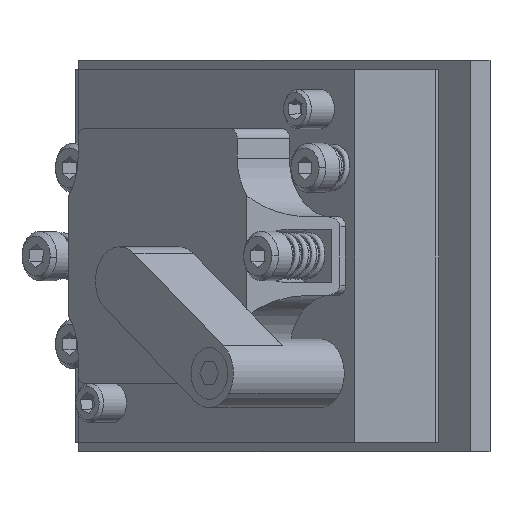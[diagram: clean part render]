
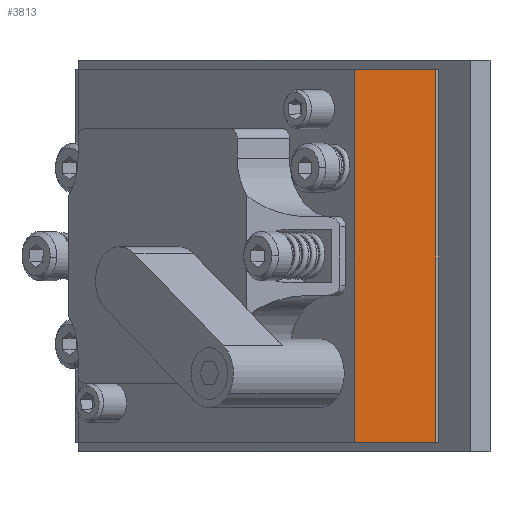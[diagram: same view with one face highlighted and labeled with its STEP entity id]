
A CAD part, left-side view. The second image highlights one B-rep face of the part: STEP entity #3813.
In plain terms, the highlighted planar face has unit normal (-0.999, 0.041, 0).
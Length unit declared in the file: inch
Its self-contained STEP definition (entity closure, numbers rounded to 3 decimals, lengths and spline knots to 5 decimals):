
#354 = ORIENTED_EDGE ( 'NONE', *, *, #46374, .F. ) ;
#3813 = ADVANCED_FACE ( 'NONE', ( #11145 ), #47428, .F. ) ;
#4390 = VERTEX_POINT ( 'NONE', #17669 ) ;
#4763 = CARTESIAN_POINT ( 'NONE',  ( -1.39575, -0.90235, 1.1875 ) ) ;
#6052 = EDGE_CURVE ( 'NONE', #47075, #25583, #19904, .T. ) ;
#8228 = EDGE_LOOP ( 'NONE', ( #38543, #354, #34340, #9593 ) ) ;
#8269 = DIRECTION ( 'NONE',  ( 0.041, 0.999, 0. ) ) ;
#9593 = ORIENTED_EDGE ( 'NONE', *, *, #20263, .T. ) ;
#10152 = CARTESIAN_POINT ( 'NONE',  ( -1.37454, -0.38616, -1.1875 ) ) ;
#11145 = FACE_OUTER_BOUND ( 'NONE', #8228, .T. ) ;
#12172 = CARTESIAN_POINT ( 'NONE',  ( -1.39575, -0.90235, -1.1875 ) ) ;
#15019 = DIRECTION ( 'NONE',  ( -0.041, -0.999, 0. ) ) ;
#16305 = DIRECTION ( 'NONE',  ( 0., 0., -1. ) ) ;
#17669 = CARTESIAN_POINT ( 'NONE',  ( -1.37454, -0.38616, -1.1875 ) ) ;
#19904 = LINE ( 'NONE', #31410, #52906 ) ;
#20263 = EDGE_CURVE ( 'NONE', #47075, #4390, #41264, .T. ) ;
#23762 = LINE ( 'NONE', #28780, #30541 ) ;
#25583 = VERTEX_POINT ( 'NONE', #4763 ) ;
#27105 = DIRECTION ( 'NONE',  ( -0.041, -0.999, 0. ) ) ;
#28473 = VECTOR ( 'NONE', #45450, 39.37008 ) ;
#28780 = CARTESIAN_POINT ( 'NONE',  ( -1.39575, -0.90235, 1.1875 ) ) ;
#30541 = VECTOR ( 'NONE', #16305, 39.37008 ) ;
#31410 = CARTESIAN_POINT ( 'NONE',  ( -1.37454, -0.38616, 1.1875 ) ) ;
#34340 = ORIENTED_EDGE ( 'NONE', *, *, #6052, .F. ) ;
#38543 = ORIENTED_EDGE ( 'NONE', *, *, #44381, .T. ) ;
#39405 = VECTOR ( 'NONE', #27105, 39.37008 ) ;
#41264 = LINE ( 'NONE', #54517, #28473 ) ;
#41908 = VERTEX_POINT ( 'NONE', #12172 ) ;
#43411 = AXIS2_PLACEMENT_3D ( 'NONE', #51954, #55731, #8269 ) ;
#44381 = EDGE_CURVE ( 'NONE', #4390, #41908, #50880, .T. ) ;
#44942 = CARTESIAN_POINT ( 'NONE',  ( -1.37454, -0.38616, 1.1875 ) ) ;
#45450 = DIRECTION ( 'NONE',  ( 0., 0., -1. ) ) ;
#46374 = EDGE_CURVE ( 'NONE', #25583, #41908, #23762, .T. ) ;
#47075 = VERTEX_POINT ( 'NONE', #44942 ) ;
#47428 = PLANE ( 'NONE',  #43411 ) ;
#50880 = LINE ( 'NONE', #10152, #39405 ) ;
#51954 = CARTESIAN_POINT ( 'NONE',  ( -1.37454, -0.38616, 1.1875 ) ) ;
#52906 = VECTOR ( 'NONE', #15019, 39.37008 ) ;
#54517 = CARTESIAN_POINT ( 'NONE',  ( -1.37454, -0.38616, 1.1875 ) ) ;
#55731 = DIRECTION ( 'NONE',  ( 0.999, -0.041, 0. ) ) ;
